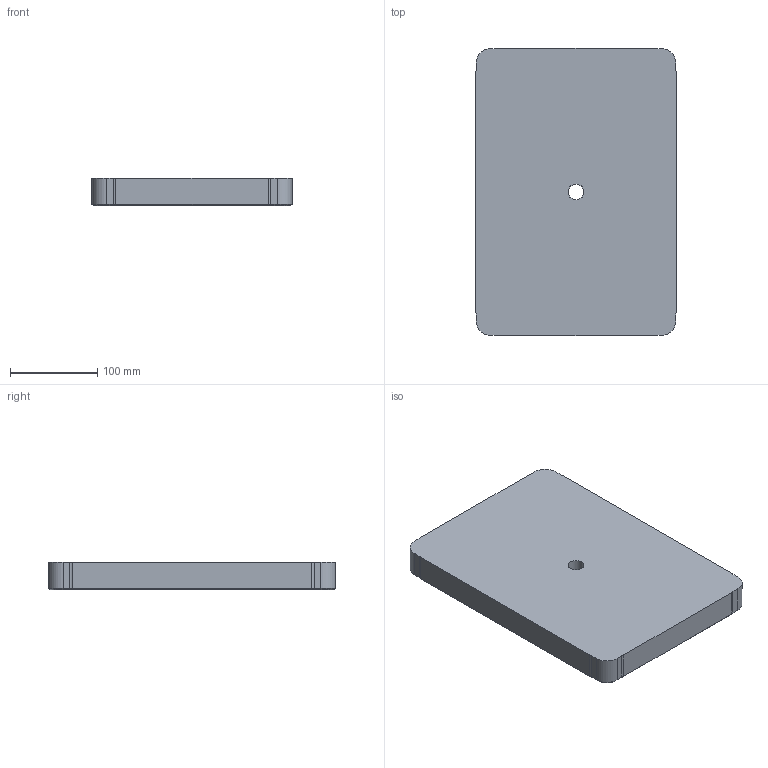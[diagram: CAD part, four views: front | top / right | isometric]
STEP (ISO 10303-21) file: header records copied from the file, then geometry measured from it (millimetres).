
FILE_DESCRIPTION (( 'STEP AP214' ), '1' );
FILE_NAME ('DS-Formeinsatz 230_330_32.STEP', '2024-02-29T10:02:25', ( '' ), ( '' ), 'SwSTEP 2.0', 'SolidWorks 2020', '' );
FILE_SCHEMA (( 'AUTOMOTIVE_DESIGN' ));
Length unit declared in the file: millimetre
Products named in the file (1): DS-Formeinsatz 230_330_32
Bounding box: 230 x 330 x 32 mm (x, y, z)
Volume: 2400332.7 mm3; surface area: 189404.6 mm2
Topology: 1 solids, 1 shells, 72 faces, 172 edges, 102 vertices
Faces by surface type: plane 26, cone 26, cylinder 20
Full cylindrical faces by diameter (mm): 8.5 x6, 18 x1, 18.5 x1
Entity records: 1924 total; most frequent: DIRECTION 340, CARTESIAN_POINT 335, ORIENTED_EDGE 286, EDGE_CURVE 143, AXIS2_PLACEMENT_3D 132, EDGE_LOOP 96, VERTEX_POINT 95, FACE_OUTER_BOUND 80
